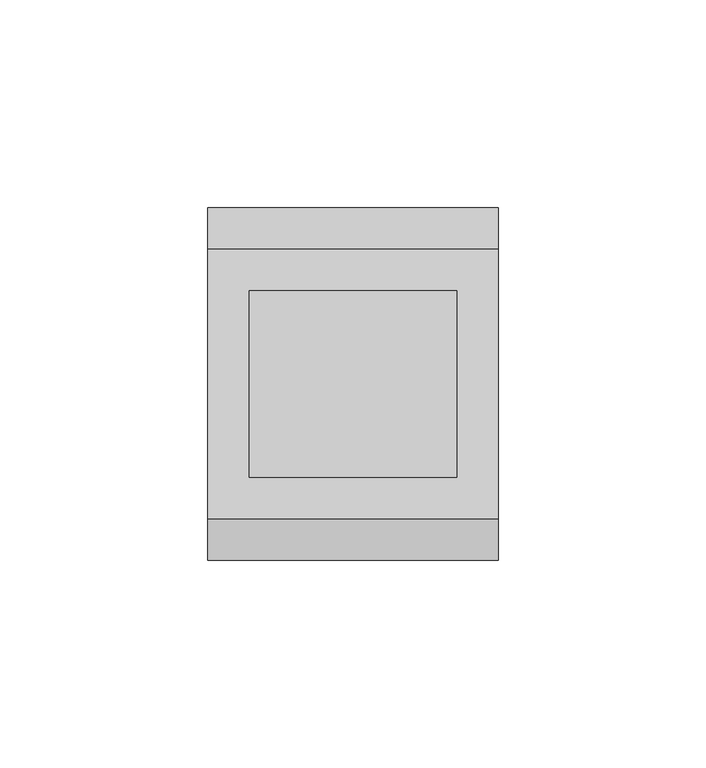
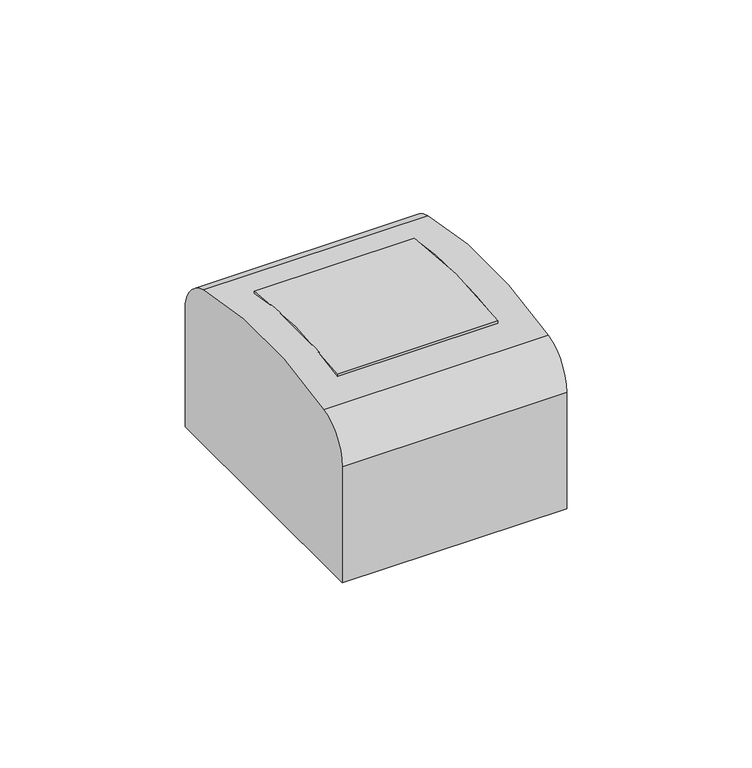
"""IFC4 building model written with IfcOpenShell, lengths in millimetres: cable carrier fitting geometry, КНС_МодульнаяНастеннаяКоробка_DKC : IP55, 2мод.."""

from ifc_helpers import new_model, si_unit, point, frame, frame_2d, origin, place, context, project, spatial, polyline, circle_curve, trimmed, segment, composite_curve, outline, extrude, source, transform, mapped, element, save
from ifc_brep_helpers import plane_surface, cylinder_surface, revolved_surface, advanced_brep


def cable_carrier_fitting_5ef4d5b9(model_context):
    return source(origin(), model_context, "Body", "SolidModel", [
        extrude(outline(composite_curve([segment(trimmed(circle_curve(frame_2d((0.0, -77.1072021)), 132.3364242), [point((-22.5, 53.3024569))], [point((22.5, 53.3024569))], False, "CARTESIAN"), True, "CONTINUOUS"), segment(polyline([(22.5, 53.3024569), (22.5, 52.2875672)]), True, "CONTINUOUS"), segment(trimmed(circle_curve(frame_2d((0.0, -77.1072021)), 131.3364242), [point((22.5, 52.2875672))], [point((-22.5, 52.2875672))], True, "CARTESIAN"), True, "CONTINUOUS"), segment(polyline([(-22.5, 52.2875672), (-22.5, 53.3024569)]), True, "CONTINUOUS")], self_intersect=False)), frame((-25.0, 0.0, 0.0), z_axis=(1.0, 0.0, 0.0), x_axis=(0.0, 1.0, 0.0)), (0.0, 0.0, 1.0), 50.0),
        advanced_brep(
        [(35.0, 42.5, 0.0), (35.0, 42.5, 38.4), (35.0, 32.5785942, 51.1564497), (35.0, -32.5785942, 51.1564497), (35.0, -42.5, 38.4), (35.0, -42.5, 0.0), (-35.0, 42.5, 0.0), (-35.0, -42.5, 0.0), (-35.0, -42.5, 38.4), (-35.0, -32.5785942, 51.1564497), (-35.0, 32.5785942, 51.1564497), (-35.0, 42.5, 38.4), (-25.0, -22.5, 53.3024569), (25.0, -22.5, 53.3024569), (25.0, -22.5, 48.2064495), (-25.0, -22.5, 48.2064495), (25.0, 22.5, 53.3024569), (25.0, 22.5, 48.2064495), (25.0, 0.0, 49.9994992), (-25.0, 22.5, 53.3024569), (-25.0, 22.5, 48.2064495), (-25.0, 0.0, 49.9994992), (30.0, -31.3476937, 46.3103292), (30.0, 0.0, 49.9994992), (30.0, 31.3476937, 46.3103292), (30.0, 37.5, 38.4), (30.0, 37.5, 5.0), (30.0, -37.5, 5.0), (30.0, -37.5, 38.4), (-30.0, -31.3476937, 46.3103292), (-30.0, -37.5, 38.4), (-30.0, -37.5, 5.0), (-30.0, 37.5, 5.0), (-30.0, 37.5, 38.4), (-30.0, 31.3476937, 46.3103292), (-30.0, 0.0, 49.9994992)],
        [
            (0, 1),
            (1, 2, circle_curve(frame((35.0, 29.3384931, 38.4), z_axis=(1.0, 0.0, 0.0), x_axis=(0.0, 1.0, 0.0)), 13.1615069)),
            (2, 3, circle_curve(frame((35.0, 0.0, -77.1072021), z_axis=(1.0, 0.0, 0.0), x_axis=(0.0, 1.0, 0.0)), 132.3364242)),
            (3, 4, circle_curve(frame((35.0, -29.3384931, 38.4), z_axis=(1.0, 0.0, 0.0), x_axis=(0.0, 1.0, 0.0)), 13.1615069)),
            (4, 5),
            (5, 0),
            (6, 7),
            (7, 8),
            (8, 9, circle_curve(frame((-35.0, -29.3384931, 38.4), z_axis=(-1.0, 0.0, 0.0), x_axis=(0.0, 1.0, 0.0)), 13.1615069)),
            (9, 10, circle_curve(frame((-35.0, 0.0, -77.1072021), z_axis=(-1.0, 0.0, 0.0), x_axis=(0.0, 1.0, 0.0)), 132.3364242)),
            (10, 11, circle_curve(frame((-35.0, 29.3384931, 38.4), z_axis=(-1.0, 0.0, 0.0), x_axis=(0.0, 1.0, 0.0)), 13.1615069)),
            (11, 6),
            (0, 6),
            (11, 1),
            (10, 2),
            (3, 9),
            (8, 4),
            (7, 5),
            (12, 13),
            (13, 14),
            (14, 15),
            (15, 12),
            (13, 16, circle_curve(frame((25.0, 0.0, -77.1072021), z_axis=(-1.0, 0.0, 0.0), x_axis=(0.0, 1.0, 0.0)), 132.3364242)),
            (16, 17),
            (17, 18, circle_curve(frame((25.0, 1.7372224, -70.2676652), z_axis=(1.0, 0.0, 0.0), x_axis=(0.0, 1.0, 0.0)), 120.2797106)),
            (18, 14, circle_curve(frame((25.0, -1.7372224, -70.2676652), z_axis=(1.0, 0.0, 0.0), x_axis=(0.0, 1.0, 0.0)), 120.2797106)),
            (16, 19),
            (19, 20),
            (20, 17),
            (19, 12, circle_curve(frame((-25.0, 0.0, -77.1072021), z_axis=(1.0, 0.0, 0.0), x_axis=(0.0, 1.0, 0.0)), 132.3364242)),
            (15, 21, circle_curve(frame((-25.0, -1.7372224, -70.2676652), z_axis=(-1.0, 0.0, 0.0), x_axis=(0.0, 1.0, 0.0)), 120.2797106)),
            (21, 20, circle_curve(frame((-25.0, 1.7372224, -70.2676652), z_axis=(-1.0, 0.0, 0.0), x_axis=(0.0, 1.0, 0.0)), 120.2797106)),
            (22, 23, circle_curve(frame((30.0, -1.7372224, -70.2676652), z_axis=(-1.0, 0.0, 0.0), x_axis=(0.0, 1.0, 0.0)), 120.2797106)),
            (23, 24, circle_curve(frame((30.0, 1.7372224, -70.2676652), z_axis=(-1.0, 0.0, 0.0), x_axis=(0.0, 1.0, 0.0)), 120.2797106)),
            (24, 25, circle_curve(frame((30.0, 29.3384931, 38.4), z_axis=(-1.0, 0.0, 0.0), x_axis=(0.0, 1.0, 0.0)), 8.1615069)),
            (25, 26),
            (26, 27),
            (27, 28),
            (28, 22, circle_curve(frame((30.0, -29.3384931, 38.4), z_axis=(-1.0, 0.0, 0.0), x_axis=(0.0, 1.0, 0.0)), 8.1615069)),
            (29, 30, circle_curve(frame((-30.0, -29.3384931, 38.4), z_axis=(1.0, 0.0, 0.0), x_axis=(0.0, 1.0, 0.0)), 8.1615069)),
            (30, 31),
            (31, 32),
            (32, 33),
            (33, 34, circle_curve(frame((-30.0, 29.3384931, 38.4), z_axis=(1.0, 0.0, 0.0), x_axis=(0.0, 1.0, 0.0)), 8.1615069)),
            (34, 35, circle_curve(frame((-30.0, 1.7372224, -70.2676652), z_axis=(1.0, 0.0, 0.0), x_axis=(0.0, 1.0, 0.0)), 120.2797106)),
            (35, 29, circle_curve(frame((-30.0, -1.7372224, -70.2676652), z_axis=(1.0, 0.0, 0.0), x_axis=(0.0, 1.0, 0.0)), 120.2797106)),
            (28, 30),
            (29, 22),
            (27, 31),
            (26, 32),
            (25, 33),
            (24, 34),
            (23, 18),
            (21, 35),
        ],
        [
            plane_surface(frame((35.0, 42.5, 38.4), z_axis=(1.0, 0.0, 0.0), x_axis=(0.0, 0.0, 1.0))),
            plane_surface(frame((-35.0, 42.5, 38.4), z_axis=(-1.0, 0.0, 0.0), x_axis=(0.0, 0.0, -1.0))),
            plane_surface(frame((35.0, 42.5, 0.0), z_axis=(0.0, 1.0, 0.0), x_axis=(-1.0, 0.0, 0.0))),
            cylinder_surface(frame((-35.0, 29.3384931, 38.4), z_axis=(1.0, 0.0, 0.0), x_axis=(0.0, 1.0, 0.0)), 13.1615069),
            cylinder_surface(frame((-35.0, -29.3384931, 38.4), z_axis=(1.0, 0.0, 0.0), x_axis=(0.0, 1.0, 0.0)), 13.1615069),
            plane_surface(frame((35.0, -42.5, 38.4), z_axis=(0.0, -1.0, 0.0), x_axis=(-1.0, 0.0, 0.0))),
            plane_surface(frame((35.0, -42.5, 0.0), z_axis=(0.0, 0.0, -1.0), x_axis=(-1.0, 0.0, 0.0))),
            plane_surface(frame((-25.0, -22.5, 64.2929878), z_axis=(0.0, 1.0, 0.0), x_axis=(0.0, 0.0, -1.0))),
            plane_surface(frame((25.0, -22.5, 64.2929878), z_axis=(-1.0, 0.0, 0.0), x_axis=(0.0, 0.0, -1.0))),
            plane_surface(frame((25.0, 22.5, 64.2929878), z_axis=(0.0, -1.0, 0.0), x_axis=(0.0, 0.0, -1.0))),
            plane_surface(frame((-25.0, 22.5, 64.2929878), z_axis=(1.0, 0.0, 0.0), x_axis=(0.0, 0.0, -1.0))),
            plane_surface(frame((30.0, -21.1769862, 38.4), z_axis=(-1.0, 0.0, 0.0), x_axis=(0.0, 0.0, 1.0))),
            plane_surface(frame((-30.0, -21.1769862, 38.4), z_axis=(1.0, 0.0, 0.0), x_axis=(0.0, 0.0, -1.0))),
            revolved_surface(polyline([(30.0, -21.1769862, 38.4), (-30.0, -21.1769862, 38.4)]), (-30.0, -29.3384931, 38.4), (1.0, 0.0, 0.0)),
            plane_surface(frame((30.0, -37.5, 38.4), z_axis=(0.0, 1.0, 0.0), x_axis=(-1.0, 0.0, 0.0))),
            plane_surface(frame((30.0, -37.5, 5.0), z_axis=(0.0, 0.0, 1.0), x_axis=(-1.0, 0.0, 0.0))),
            plane_surface(frame((30.0, 37.5, 5.0), z_axis=(0.0, -1.0, 0.0), x_axis=(-1.0, 0.0, 0.0))),
            revolved_surface(polyline([(30.0, 37.5, 38.4), (-30.0, 37.5, 38.4)]), (-30.0, 29.3384931, 38.4), (1.0, 0.0, 0.0)),
            revolved_surface(polyline([(30.0, 122.016933, -70.2676652), (-30.0, 122.016933, -70.2676652)]), (-30.0, 1.7372224, -70.2676652), (1.0, 0.0, 0.0)),
            revolved_surface(polyline([(30.0, 118.54248820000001, -70.2676652), (-30.0, 118.54248820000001, -70.2676652)]), (-30.0, -1.7372224, -70.2676652), (1.0, 0.0, 0.0)),
            cylinder_surface(frame((-35.0, 0.0, -77.1072021), z_axis=(1.0, 0.0, 0.0), x_axis=(0.0, 1.0, 0.0)), 132.3364242),
        ],
        [
            (0, [[1, 2, 3, 4, 5, 6]]),
            (1, [[7, 8, 9, 10, 11, 12]]),
            (2, [[-1, 13, -12, 14]]),
            (3, [[-2, -14, -11, 15]]),
            (4, [[-4, 16, -9, 17]]),
            (5, [[-5, -17, -8, 18]]),
            (6, [[-6, -18, -7, -13]]),
            (7, [[19, 20, 21, 22]]),
            (8, [[23, 24, 25, 26, -20]]),
            (9, [[27, 28, 29, -24]]),
            (10, [[30, -22, 31, 32, -28]]),
            (11, [[33, 34, 35, 36, 37, 38, 39]]),
            (12, [[40, 41, 42, 43, 44, 45, 46]]),
            (13, [[-39, 47, -40, 48]]),
            (14, [[-38, 49, -41, -47]]),
            (15, [[-37, 50, -42, -49]]),
            (16, [[-36, 51, -43, -50]]),
            (17, [[-35, 52, -44, -51]]),
            (18, [[-34, 53, -25, -29, -32, 54, -45, -52]]),
            (19, [[-33, -48, -46, -54, -31, -21, -26, -53]]),
            (20, [[-3, -15, -10, -16], [-19, -30, -27, -23]]),
        ],
    ),
    ])


if __name__ == "__main__":
    model = new_model("IFC4")
    model_context = context("Model", 3, world=origin())
    ifc_project = project(units=[si_unit("LENGTHUNIT", "METRE", prefix="MILLI")], contexts=[model_context])
    site = spatial("IfcSite", under=ifc_project)
    building = spatial("IfcBuilding", under=site)
    placement = place(None, origin())
    cable_carrier_fitting_shape = cable_carrier_fitting_5ef4d5b9(model_context)
    element("IfcCableCarrierFitting", 1, ObjectType="КНС_МодульнаяНастеннаяКоробка_DKC : IP55, 2мод.", at=placement, inside=building, context=model_context, shape_type="MappedRepresentation", body=[
        mapped(cable_carrier_fitting_shape, transform((0.0, 0.0, 0.0), x_axis=(1.0, 0.0, 0.0), y_axis=(0.0, 1.0, 0.0), z_axis=(0.0, 0.0, 1.0))),
    ])
    save(model, "model.ifc")
